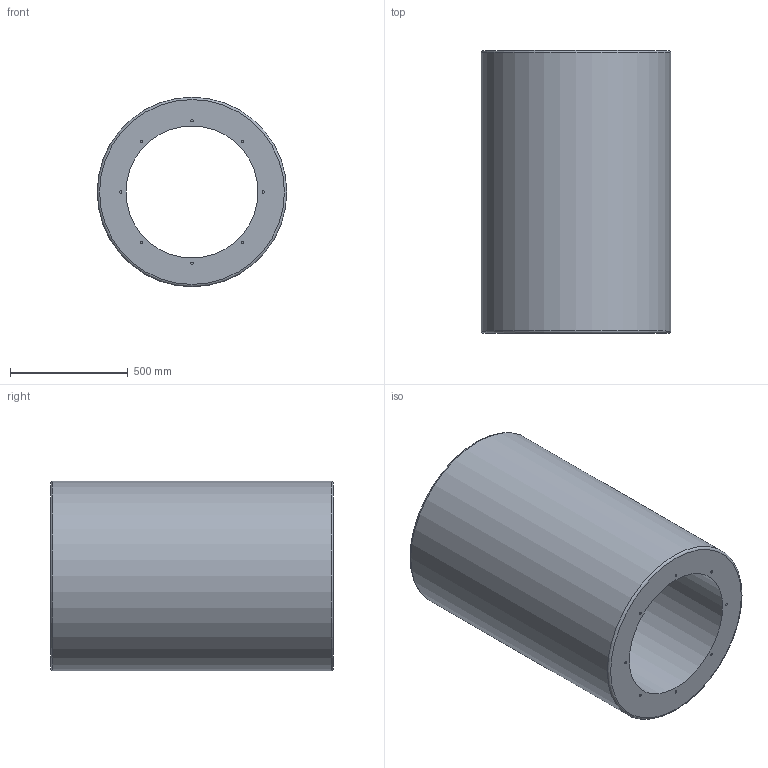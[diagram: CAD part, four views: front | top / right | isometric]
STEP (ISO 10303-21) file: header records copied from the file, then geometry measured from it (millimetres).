
FILE_DESCRIPTION(/* description */ (''),/* implementation_level */ '2;1');
FILE_NAME(/* name */ 'Z:\Output\RSD_560-1200-08759-002.stp',/* time_stamp */ '2017-09-20T12:04:18+02:00',/* author */ ('Engineering1'),/* organization */ (''),/* preprocessor_version */ 'ST-DEVELOPER v16.5',/* originating_system */ 'Autodesk Inventor 2017',/* authorisation */ '');
FILE_SCHEMA (('AUTOMOTIVE_DESIGN { 1 0 10303 214 3 1 1 }'));
Length unit declared in the file: millimetre
Products named in the file (1): RSD-1
Bounding box: 804 x 1200 x 804 mm (x, y, z)
Volume: 313551316.2 mm3; surface area: 5648200.6 mm2
Topology: 1 solids, 1 shells, 38 faces, 58 edges, 38 vertices
Faces by surface type: cylinder 18, plane 18, torus 2
Full cylindrical faces by diameter (mm): 10 x16, 560 x1, 804 x1
Entity records: 806 total; most frequent: DIRECTION 154, CARTESIAN_POINT 115, AXIS2_PLACEMENT_3D 77, EDGE_LOOP 76, ORIENTED_EDGE 76, FACE_BOUND 38, FACE_OUTER_BOUND 38, CIRCLE 38
